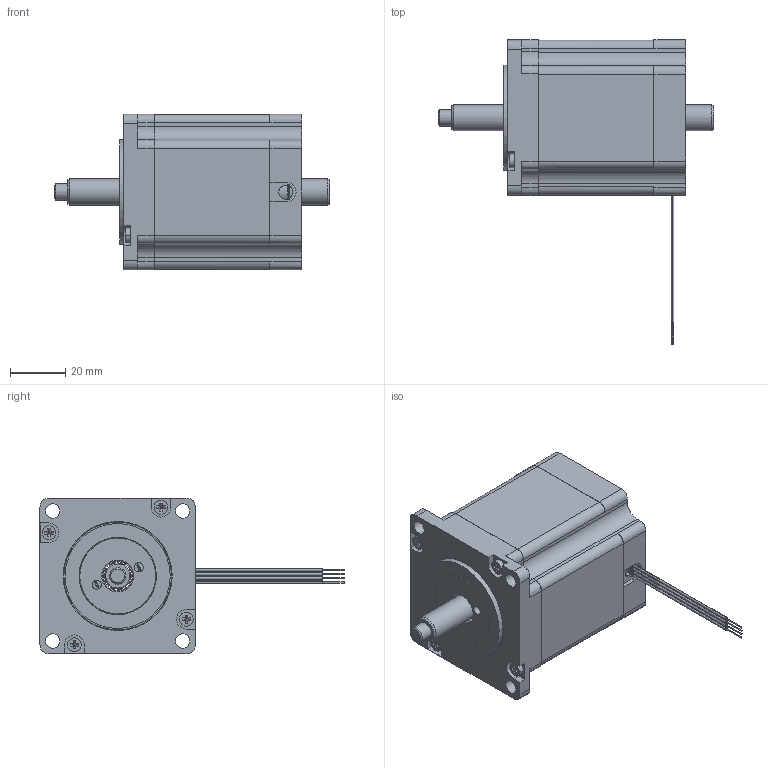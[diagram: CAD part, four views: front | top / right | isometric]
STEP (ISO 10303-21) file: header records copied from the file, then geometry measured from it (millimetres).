
FILE_DESCRIPTION( ('This file contains a STEP AP42 implementation' ,'as created by ZW3D STEP Interface translator.' ,'') ,'2;1' );
FILE_NAME( '57NC4X-XX-XXX.stp' ,'26 1 4. 84441', (''), ('ZWCAD Software Co.'), 'Version 1.0', 'ZW3D to STEP translator', '' );
FILE_SCHEMA(('AUTOMOTIVE_DESIGN { 1 0 10303 214 1 1 1 1 }'));
Length unit declared in the file: millimetre
Products named in the file (1): 0
Bounding box: 100 x 110.29 x 56.4 mm (x, y, z)
Volume: 68384.6 mm3; surface area: 46991.1 mm2
Topology: 9 solids, 9 shells, 523 faces, 1315 edges, 852 vertices
Faces by surface type: plane 253, cylinder 168, torus 44, bspline 35, cone 23
Full cylindrical faces by diameter (mm): 2.5 x8, 3.18 x4, 3.3 x6, 5.21 x4, 6 x1, 9.53 x1, 10.3 x2, 11.1 x1, 12 x2, 14.27 x1, 21.95 x1, 28 x4, 34.82 x2, 38.1 x1, 50.6 x1
Entity records: 17527 total; most frequent: CARTESIAN_POINT 4308, ORIENTED_EDGE 2626, DIRECTION 2624, EDGE_CURVE 1313, AXIS2_PLACEMENT_3D 952, VERTEX_POINT 852, VECTOR 720, LINE 720
